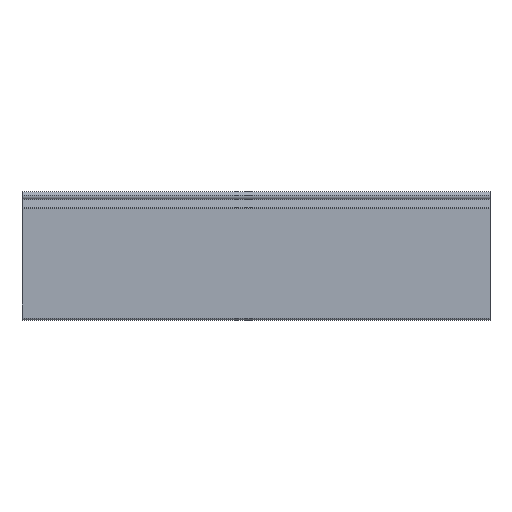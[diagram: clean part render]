
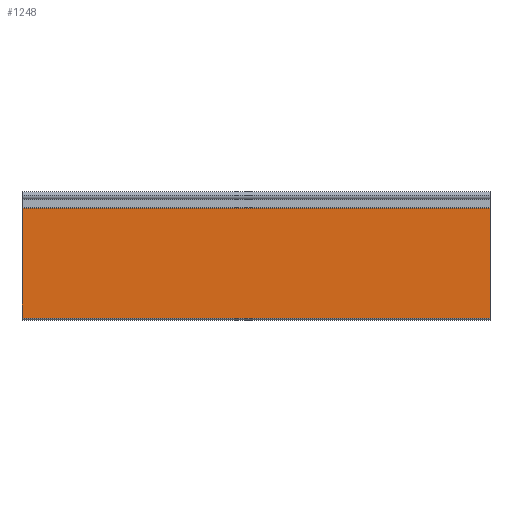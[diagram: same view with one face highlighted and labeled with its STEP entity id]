
A CAD part, top view. The second image highlights one B-rep face of the part: STEP entity #1248.
In plain terms, the highlighted planar face has unit normal (0, 0, 1).
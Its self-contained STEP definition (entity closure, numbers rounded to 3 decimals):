
#65 = FACE_OUTER_BOUND ( 'NONE', #1281, .T. ) ;
#147 = CARTESIAN_POINT ( 'NONE',  ( -233., -121.663, 4.05 ) ) ;
#150 = CARTESIAN_POINT ( 'NONE',  ( -233., -12.164, 4.05 ) ) ;
#170 = CARTESIAN_POINT ( 'NONE',  ( 233., -12.164, 4.05 ) ) ;
#185 = CARTESIAN_POINT ( 'NONE',  ( 233., -121.663, 4.05 ) ) ;
#208 = PLANE ( 'NONE',  #704 ) ;
#215 = CARTESIAN_POINT ( 'NONE',  ( 233., -12.164, 4.05 ) ) ;
#234 = DIRECTION ( 'NONE',  ( 0., 0., -1. ) ) ;
#235 = DIRECTION ( 'NONE',  ( 0., 1., 0. ) ) ;
#239 = LINE ( 'NONE', #837, #241 ) ;
#241 = VECTOR ( 'NONE', #846, 1000. ) ;
#258 = LINE ( 'NONE', #868, #259 ) ;
#259 = VECTOR ( 'NONE', #869, 1000. ) ;
#260 = LINE ( 'NONE', #870, #261 ) ;
#261 = VECTOR ( 'NONE', #871, 1000. ) ;
#351 = EDGE_CURVE ( 'NONE', #1003, #1000, #239, .T. ) ;
#576 = ORIENTED_EDGE ( 'NONE', *, *, #351, .T. ) ;
#577 = ORIENTED_EDGE ( 'NONE', *, *, #600, .F. ) ;
#578 = ORIENTED_EDGE ( 'NONE', *, *, #641, .F. ) ;
#579 = ORIENTED_EDGE ( 'NONE', *, *, #599, .T. ) ;
#599 = EDGE_CURVE ( 'NONE', #1023, #1003, #258, .T. ) ;
#600 = EDGE_CURVE ( 'NONE', #1038, #1000, #260, .T. ) ;
#641 = EDGE_CURVE ( 'NONE', #1023, #1038, #935, .T. ) ;
#704 = AXIS2_PLACEMENT_3D ( 'NONE', #215, #234, #235 ) ;
#837 = CARTESIAN_POINT ( 'NONE',  ( -233., -12.164, 4.05 ) ) ;
#846 = DIRECTION ( 'NONE',  ( 0., -1., 0. ) ) ;
#868 = CARTESIAN_POINT ( 'NONE',  ( 233., -12.164, 4.05 ) ) ;
#869 = DIRECTION ( 'NONE',  ( -1., 0., 0. ) ) ;
#870 = CARTESIAN_POINT ( 'NONE',  ( 233., -121.663, 4.05 ) ) ;
#871 = DIRECTION ( 'NONE',  ( -1., 0., 0. ) ) ;
#928 = VECTOR ( 'NONE', #1109, 1000. ) ;
#935 = LINE ( 'NONE', #1103, #928 ) ;
#1000 = VERTEX_POINT ( 'NONE', #147 ) ;
#1003 = VERTEX_POINT ( 'NONE', #150 ) ;
#1023 = VERTEX_POINT ( 'NONE', #170 ) ;
#1038 = VERTEX_POINT ( 'NONE', #185 ) ;
#1103 = CARTESIAN_POINT ( 'NONE',  ( 233., -12.164, 4.05 ) ) ;
#1109 = DIRECTION ( 'NONE',  ( 0., -1., 0. ) ) ;
#1248 = ADVANCED_FACE ( 'NONE', ( #65 ), #208, .F. ) ;
#1281 = EDGE_LOOP ( 'NONE', ( #576, #577, #578, #579 ) ) ;
